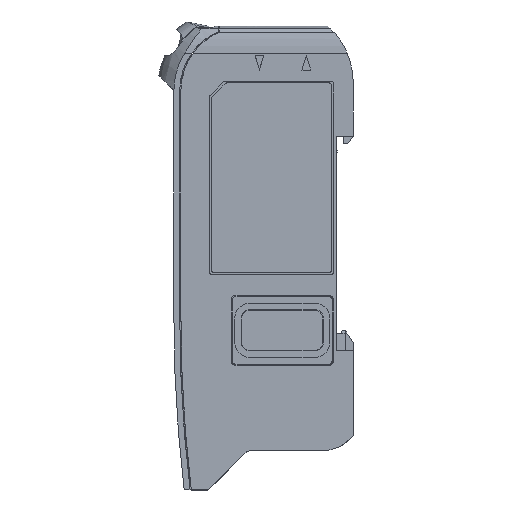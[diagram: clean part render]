
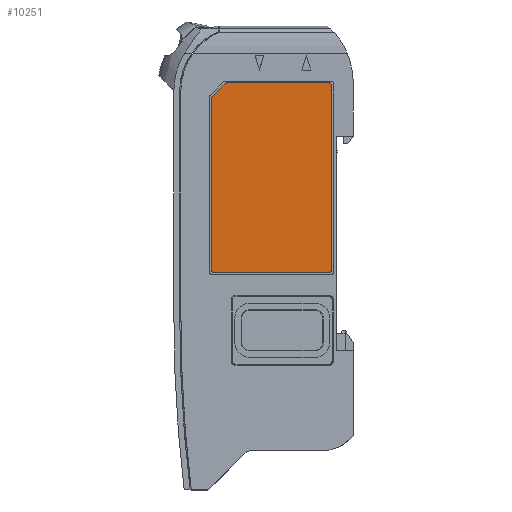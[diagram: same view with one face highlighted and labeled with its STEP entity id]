
A CAD part, left-side view. The second image highlights one B-rep face of the part: STEP entity #10251.
In plain terms, the highlighted planar face has unit normal (-1, 0, 0).
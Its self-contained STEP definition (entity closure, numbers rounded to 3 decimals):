
#124 = CIRCLE ( 'NONE', #16977, 0.5 ) ;
#243 = EDGE_CURVE ( 'NONE', #11994, #13664, #124, .T. ) ;
#579 = CARTESIAN_POINT ( 'NONE',  ( -10.425, 24.203, -12.404 ) ) ;
#764 = VERTEX_POINT ( 'NONE', #7862 ) ;
#1607 = VECTOR ( 'NONE', #10433, 1000. ) ;
#2310 = DIRECTION ( 'NONE',  ( -1., 0., 0. ) ) ;
#2533 = CIRCLE ( 'NONE', #13563, 0.5 ) ;
#2617 = CARTESIAN_POINT ( 'NONE',  ( -10.425, 4.203, -41.597 ) ) ;
#2806 = LINE ( 'NONE', #14000, #1607 ) ;
#2908 = DIRECTION ( 'NONE',  ( 0., 0., -1. ) ) ;
#3369 = DIRECTION ( 'NONE',  ( 0., -1., 0. ) ) ;
#3553 = ORIENTED_EDGE ( 'NONE', *, *, #19330, .F. ) ;
#3657 = CIRCLE ( 'NONE', #17403, 0.5 ) ;
#4057 = ORIENTED_EDGE ( 'NONE', *, *, #20449, .F. ) ;
#4258 = CARTESIAN_POINT ( 'NONE',  ( -10.425, 4.203, -9.697 ) ) ;
#5146 = ORIENTED_EDGE ( 'NONE', *, *, #5618, .T. ) ;
#5471 = ORIENTED_EDGE ( 'NONE', *, *, #8206, .F. ) ;
#5481 = LINE ( 'NONE', #12739, #7353 ) ;
#5504 = CARTESIAN_POINT ( 'NONE',  ( -10.425, 3.703, -41.597 ) ) ;
#5618 = EDGE_CURVE ( 'NONE', #23488, #16095, #2806, .T. ) ;
#6148 = CARTESIAN_POINT ( 'NONE',  ( -10.425, 3.703, -10.197 ) ) ;
#6205 = DIRECTION ( 'NONE',  ( 0., 0., 1. ) ) ;
#6790 = ORIENTED_EDGE ( 'NONE', *, *, #16225, .T. ) ;
#6802 = ORIENTED_EDGE ( 'NONE', *, *, #13851, .T. ) ;
#7024 = DIRECTION ( 'NONE',  ( 0., 0., -1. ) ) ;
#7353 = VECTOR ( 'NONE', #3369, 1000. ) ;
#7607 = CIRCLE ( 'NONE', #23637, 0.5 ) ;
#7862 = CARTESIAN_POINT ( 'NONE',  ( -10.425, 21.496, -9.697 ) ) ;
#8102 = AXIS2_PLACEMENT_3D ( 'NONE', #13612, #2310, #22909 ) ;
#8182 = EDGE_CURVE ( 'NONE', #15027, #16702, #3657, .T. ) ;
#8206 = EDGE_CURVE ( 'NONE', #19327, #764, #7607, .T. ) ;
#9350 = VERTEX_POINT ( 'NONE', #21577 ) ;
#9426 = VECTOR ( 'NONE', #12170, 1000. ) ;
#10132 = DIRECTION ( 'NONE',  ( 1., 0., 0. ) ) ;
#10251 = ADVANCED_FACE ( 'NONE', ( #19117 ), #15468, .T. ) ;
#10433 = DIRECTION ( 'NONE',  ( 0., 0., -1. ) ) ;
#10530 = EDGE_CURVE ( 'NONE', #9350, #16702, #5481, .T. ) ;
#10842 = AXIS2_PLACEMENT_3D ( 'NONE', #18304, #18179, #7024 ) ;
#10939 = VECTOR ( 'NONE', #19266, 1000. ) ;
#11161 = EDGE_LOOP ( 'NONE', ( #5146, #4057, #23221, #21887, #6802, #18842, #6790, #5471, #24180, #3553 ) ) ;
#11946 = DIRECTION ( 'NONE',  ( 0., 0., -1. ) ) ;
#11994 = VERTEX_POINT ( 'NONE', #4258 ) ;
#12170 = DIRECTION ( 'NONE',  ( 0., 1., 0. ) ) ;
#12739 = CARTESIAN_POINT ( 'NONE',  ( -10.425, 4.203, -42.097 ) ) ;
#13122 = DIRECTION ( 'NONE',  ( 1., 0., 0. ) ) ;
#13563 = AXIS2_PLACEMENT_3D ( 'NONE', #17177, #13122, #11946 ) ;
#13612 = CARTESIAN_POINT ( 'NONE',  ( -10.425, 23.703, -41.597 ) ) ;
#13664 = VERTEX_POINT ( 'NONE', #6148 ) ;
#13851 = EDGE_CURVE ( 'NONE', #15027, #13664, #22992, .T. ) ;
#13998 = VERTEX_POINT ( 'NONE', #18194 ) ;
#14000 = CARTESIAN_POINT ( 'NONE',  ( -10.425, 24.203, -41.597 ) ) ;
#14173 = EDGE_CURVE ( 'NONE', #19327, #13998, #21476, .T. ) ;
#14543 = DIRECTION ( 'NONE',  ( 0., 0., -1. ) ) ;
#15027 = VERTEX_POINT ( 'NONE', #17428 ) ;
#15468 = PLANE ( 'NONE',  #8102 ) ;
#16031 = DIRECTION ( 'NONE',  ( 1., 0., 0. ) ) ;
#16095 = VERTEX_POINT ( 'NONE', #19048 ) ;
#16225 = EDGE_CURVE ( 'NONE', #11994, #764, #17798, .T. ) ;
#16474 = CARTESIAN_POINT ( 'NONE',  ( -10.425, 4.203, -9.697 ) ) ;
#16702 = VERTEX_POINT ( 'NONE', #18841 ) ;
#16799 = CARTESIAN_POINT ( 'NONE',  ( -10.425, 21.85, -9.843 ) ) ;
#16977 = AXIS2_PLACEMENT_3D ( 'NONE', #21202, #21574, #2908 ) ;
#17177 = CARTESIAN_POINT ( 'NONE',  ( -10.425, 23.703, -12.404 ) ) ;
#17403 = AXIS2_PLACEMENT_3D ( 'NONE', #2617, #10132, #17835 ) ;
#17428 = CARTESIAN_POINT ( 'NONE',  ( -10.425, 3.703, -41.597 ) ) ;
#17795 = CARTESIAN_POINT ( 'NONE',  ( -10.425, 24.203, -12.197 ) ) ;
#17798 = LINE ( 'NONE', #16474, #9426 ) ;
#17835 = DIRECTION ( 'NONE',  ( 0., 0., -1. ) ) ;
#18179 = DIRECTION ( 'NONE',  ( 1., 0., 0. ) ) ;
#18194 = CARTESIAN_POINT ( 'NONE',  ( -10.425, 24.057, -12.05 ) ) ;
#18304 = CARTESIAN_POINT ( 'NONE',  ( -10.425, 23.703, -41.597 ) ) ;
#18841 = CARTESIAN_POINT ( 'NONE',  ( -10.425, 4.203, -42.097 ) ) ;
#18842 = ORIENTED_EDGE ( 'NONE', *, *, #243, .F. ) ;
#19048 = CARTESIAN_POINT ( 'NONE',  ( -10.425, 24.203, -41.597 ) ) ;
#19117 = FACE_OUTER_BOUND ( 'NONE', #11161, .T. ) ;
#19266 = DIRECTION ( 'NONE',  ( 0., 0.707, -0.707 ) ) ;
#19327 = VERTEX_POINT ( 'NONE', #16799 ) ;
#19330 = EDGE_CURVE ( 'NONE', #23488, #13998, #2533, .T. ) ;
#19901 = CARTESIAN_POINT ( 'NONE',  ( -10.425, 21.496, -10.197 ) ) ;
#20449 = EDGE_CURVE ( 'NONE', #9350, #16095, #24144, .T. ) ;
#21062 = VECTOR ( 'NONE', #6205, 1000. ) ;
#21202 = CARTESIAN_POINT ( 'NONE',  ( -10.425, 4.203, -10.197 ) ) ;
#21476 = LINE ( 'NONE', #17795, #10939 ) ;
#21574 = DIRECTION ( 'NONE',  ( 1., 0., 0. ) ) ;
#21577 = CARTESIAN_POINT ( 'NONE',  ( -10.425, 23.703, -42.097 ) ) ;
#21887 = ORIENTED_EDGE ( 'NONE', *, *, #8182, .F. ) ;
#22909 = DIRECTION ( 'NONE',  ( 0., 0., 1. ) ) ;
#22992 = LINE ( 'NONE', #5504, #21062 ) ;
#23221 = ORIENTED_EDGE ( 'NONE', *, *, #10530, .T. ) ;
#23488 = VERTEX_POINT ( 'NONE', #579 ) ;
#23637 = AXIS2_PLACEMENT_3D ( 'NONE', #19901, #16031, #14543 ) ;
#24144 = CIRCLE ( 'NONE', #10842, 0.5 ) ;
#24180 = ORIENTED_EDGE ( 'NONE', *, *, #14173, .T. ) ;
